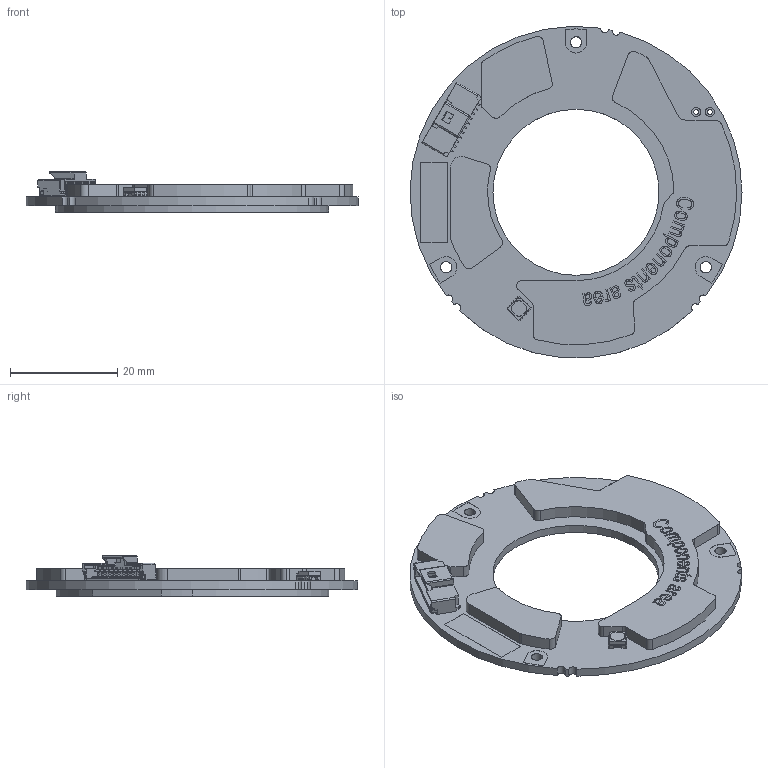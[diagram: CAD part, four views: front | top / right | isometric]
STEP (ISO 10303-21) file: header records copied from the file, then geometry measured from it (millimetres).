
FILE_DESCRIPTION (( 'STEP AP214' ), '1' );
FILE_NAME ('BR30_konektor_UVW.STEP', '2024-02-23T10:10:23', ( '' ), ( '' ), 'SwSTEP 2.0', 'SolidWorks 2022', '' );
FILE_SCHEMA (( 'AUTOMOTIVE_DESIGN' ));
Length unit declared in the file: millimetre
Products named in the file (1): BR30_konektor_UVW
Bounding box: 62 x 61.88 x 7.55 mm (x, y, z)
Volume: 7157.5 mm3; surface area: 6611.7 mm2
Topology: 1 solids, 1 shells, 1963 faces, 5350 edges, 3433 vertices
Faces by surface type: plane 1356, cylinder 259, bspline 256, cone 92
Entity records: 95479 total; most frequent: CARTESIAN_POINT 25422, ORIENTED_EDGE 10698, DIRECTION 8933, EDGE_CURVE 5349, VECTOR 4117, LINE 4117, VERTEX_POINT 3433, AXIS2_PLACEMENT_3D 2408
